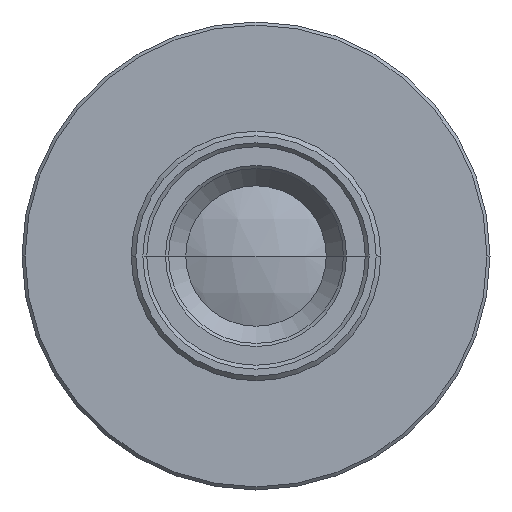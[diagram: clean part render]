
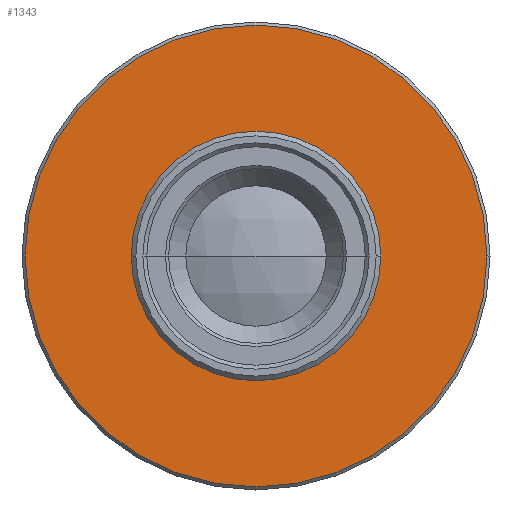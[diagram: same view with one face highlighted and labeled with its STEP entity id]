
A CAD part, left-side view. The second image highlights one B-rep face of the part: STEP entity #1343.
In plain terms, the highlighted planar face has unit normal (-1, 0, 0).
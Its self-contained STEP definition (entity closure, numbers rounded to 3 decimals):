
#56 = DIRECTION ( 'NONE',  ( 0., -1., 0. ) ) ;
#58 = ORIENTED_EDGE ( 'NONE', *, *, #1191, .F. ) ;
#74 = FACE_BOUND ( 'NONE', #871, .T. ) ;
#201 = FACE_OUTER_BOUND ( 'NONE', #616, .T. ) ;
#225 = ORIENTED_EDGE ( 'NONE', *, *, #1151, .T. ) ;
#227 = AXIS2_PLACEMENT_3D ( 'NONE', #738, #1701, #473 ) ;
#253 = CARTESIAN_POINT ( 'NONE',  ( -19.526, 14.8, 0. ) ) ;
#292 = DIRECTION ( 'NONE',  ( -1., 0., 0. ) ) ;
#322 = DIRECTION ( 'NONE',  ( 0., -1., 0. ) ) ;
#335 = ORIENTED_EDGE ( 'NONE', *, *, #1403, .T. ) ;
#342 = VERTEX_POINT ( 'NONE', #1309 ) ;
#405 = CARTESIAN_POINT ( 'NONE',  ( -19.526, 0., 0. ) ) ;
#461 = AXIS2_PLACEMENT_3D ( 'NONE', #1386, #292, #56 ) ;
#473 = DIRECTION ( 'NONE',  ( 0., -1., 0. ) ) ;
#544 = CIRCLE ( 'NONE', #227, 8. ) ;
#566 = AXIS2_PLACEMENT_3D ( 'NONE', #253, #1335, #959 ) ;
#616 = EDGE_LOOP ( 'NONE', ( #225, #335 ) ) ;
#718 = AXIS2_PLACEMENT_3D ( 'NONE', #842, #865, #322 ) ;
#738 = CARTESIAN_POINT ( 'NONE',  ( -19.526, 0., 0. ) ) ;
#741 = VERTEX_POINT ( 'NONE', #1016 ) ;
#748 = CARTESIAN_POINT ( 'NONE',  ( -19.526, -14.8, 0. ) ) ;
#787 = DIRECTION ( 'NONE',  ( 0., -1., 0. ) ) ;
#842 = CARTESIAN_POINT ( 'NONE',  ( -19.526, 0., 0. ) ) ;
#855 = CIRCLE ( 'NONE', #718, 8. ) ;
#865 = DIRECTION ( 'NONE',  ( -1., 0., 0. ) ) ;
#871 = EDGE_LOOP ( 'NONE', ( #58, #1095 ) ) ;
#959 = DIRECTION ( 'NONE',  ( 0., 1., 0. ) ) ;
#990 = CIRCLE ( 'NONE', #1136, 14.8 ) ;
#1016 = CARTESIAN_POINT ( 'NONE',  ( -19.526, 8., 0. ) ) ;
#1032 = PLANE ( 'NONE',  #566 ) ;
#1037 = VERTEX_POINT ( 'NONE', #1206 ) ;
#1056 = CIRCLE ( 'NONE', #461, 14.8 ) ;
#1095 = ORIENTED_EDGE ( 'NONE', *, *, #1531, .F. ) ;
#1136 = AXIS2_PLACEMENT_3D ( 'NONE', #405, #1625, #787 ) ;
#1151 = EDGE_CURVE ( 'NONE', #342, #1768, #1056, .T. ) ;
#1191 = EDGE_CURVE ( 'NONE', #1037, #741, #544, .T. ) ;
#1206 = CARTESIAN_POINT ( 'NONE',  ( -19.526, -8., 0. ) ) ;
#1309 = CARTESIAN_POINT ( 'NONE',  ( -19.526, 14.8, 0. ) ) ;
#1335 = DIRECTION ( 'NONE',  ( 1., 0., 0. ) ) ;
#1343 = ADVANCED_FACE ( 'NONE', ( #74, #201 ), #1032, .F. ) ;
#1386 = CARTESIAN_POINT ( 'NONE',  ( -19.526, 0., 0. ) ) ;
#1403 = EDGE_CURVE ( 'NONE', #1768, #342, #990, .T. ) ;
#1531 = EDGE_CURVE ( 'NONE', #741, #1037, #855, .T. ) ;
#1625 = DIRECTION ( 'NONE',  ( -1., 0., 0. ) ) ;
#1701 = DIRECTION ( 'NONE',  ( -1., 0., 0. ) ) ;
#1768 = VERTEX_POINT ( 'NONE', #748 ) ;
